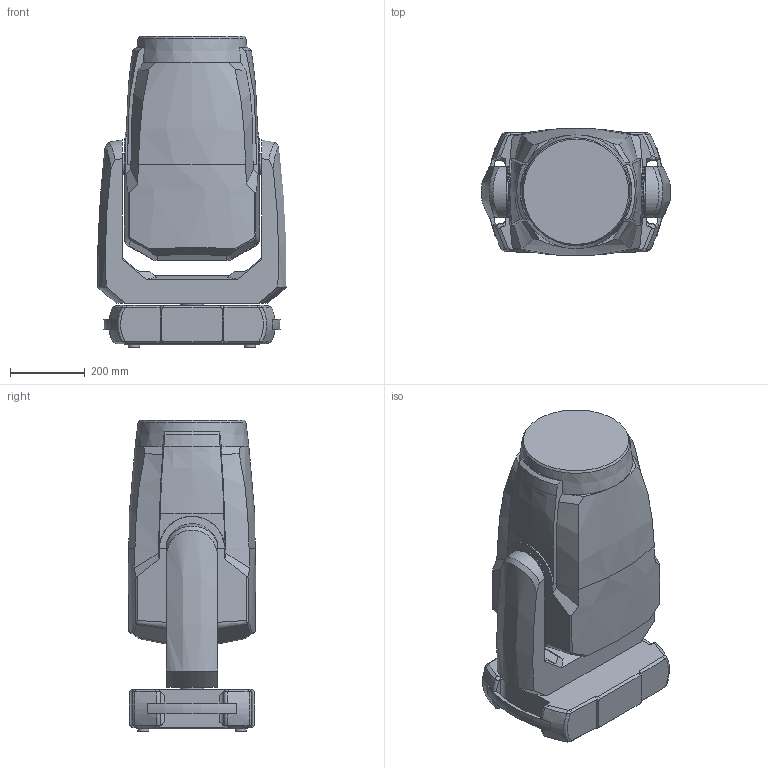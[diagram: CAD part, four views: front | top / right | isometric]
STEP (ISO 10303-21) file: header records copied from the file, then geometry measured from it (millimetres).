
FILE_DESCRIPTION(/* description */ ('Unknown'),/* implementation_level */ '2;1');
FILE_NAME(/* name */ '3D_Robin T3',/* time_stamp */ '2025-08-09T09:32:33+02:00',/* author */ ('vaclavek'),/* organization */ ('ROBE lighting s.r.o.'),/* preprocessor_version */ 'ST-DEVELOPER v20',/* originating_system */ 'Solid Edge',/* authorisation */ 'Unknown');
FILE_SCHEMA (('AUTOMOTIVE_DESIGN {1 0 10303 214 3 1 1}'));
Length unit declared in the file: millimetre
Products named in the file (4): 3D_Robin T3; Robin T3_base; Robin T3_arm; Robin T3_head
Assembly tree (3 placements, depth 2):
  3D_Robin T3
    Robin T3_base
    Robin T3_arm
    Robin T3_head
Bounding box: 505.42 x 340.81 x 832.1 mm (x, y, z)
Volume: 83482130 mm3; surface area: 1741913 mm2
Topology: 3 solids, 3 shells, 273 faces, 750 edges, 487 vertices
Faces by surface type: plane 121, bspline 97, cylinder 45, sphere 4, cone 4, torus 2
Full cylindrical faces by diameter (mm): 30 x4, 55 x2, 60 x1, 62 x1
Entity records: 16055 total; most frequent: CARTESIAN_POINT 9978, ORIENTED_EDGE 1478, DIRECTION 880, EDGE_CURVE 739, VERTEX_POINT 486, B_SPLINE_CURVE_WITH_KNOTS 340, AXIS2_PLACEMENT_3D 309, EDGE_LOOP 291
